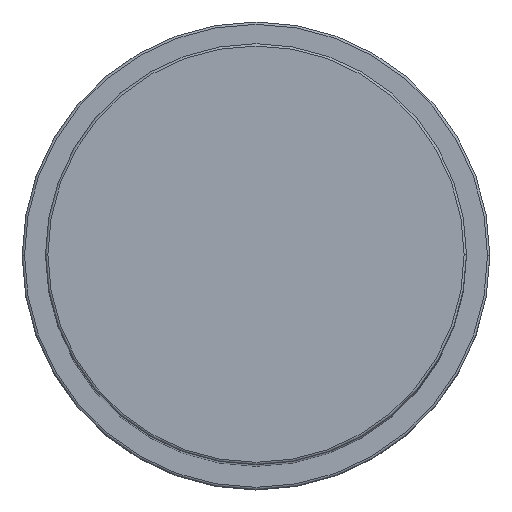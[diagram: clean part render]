
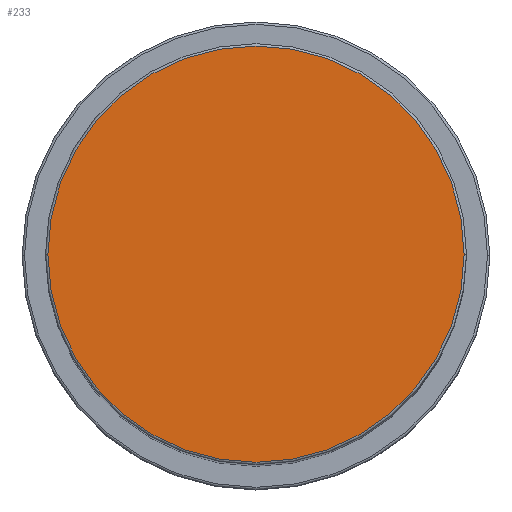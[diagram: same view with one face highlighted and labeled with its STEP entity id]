
A CAD part, top view. The second image highlights one B-rep face of the part: STEP entity #233.
In plain terms, the highlighted planar face has unit normal (0, 0, 1).
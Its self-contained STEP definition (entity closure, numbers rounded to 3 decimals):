
#165 = CIRCLE ( 'NONE', #872, 44.5 ) ;
#233 = ADVANCED_FACE ( 'NONE', ( #318 ), #608, .T. ) ;
#257 = DIRECTION ( 'NONE',  ( 0., 0., 1. ) ) ;
#260 = ORIENTED_EDGE ( 'NONE', *, *, #781, .T. ) ;
#318 = FACE_OUTER_BOUND ( 'NONE', #801, .T. ) ;
#551 = DIRECTION ( 'NONE',  ( 1., 0., 0. ) ) ;
#565 = EDGE_CURVE ( 'NONE', #1189, #1113, #165, .T. ) ;
#579 = DIRECTION ( 'NONE',  ( 1., 0., 0. ) ) ;
#605 = DIRECTION ( 'NONE',  ( 0., 0., 1. ) ) ;
#608 = PLANE ( 'NONE',  #1060 ) ;
#626 = ORIENTED_EDGE ( 'NONE', *, *, #565, .T. ) ;
#672 = CIRCLE ( 'NONE', #742, 44.5 ) ;
#685 = CARTESIAN_POINT ( 'NONE',  ( 0., 0., 224. ) ) ;
#688 = CARTESIAN_POINT ( 'NONE',  ( 44.5, 0., 224. ) ) ;
#742 = AXIS2_PLACEMENT_3D ( 'NONE', #1445, #605, #1310 ) ;
#781 = EDGE_CURVE ( 'NONE', #1113, #1189, #672, .T. ) ;
#801 = EDGE_LOOP ( 'NONE', ( #260, #626 ) ) ;
#872 = AXIS2_PLACEMENT_3D ( 'NONE', #685, #257, #551 ) ;
#892 = CARTESIAN_POINT ( 'NONE',  ( 0., 0., 224. ) ) ;
#897 = DIRECTION ( 'NONE',  ( 0., 0., 1. ) ) ;
#1060 = AXIS2_PLACEMENT_3D ( 'NONE', #892, #897, #579 ) ;
#1113 = VERTEX_POINT ( 'NONE', #688 ) ;
#1189 = VERTEX_POINT ( 'NONE', #1255 ) ;
#1255 = CARTESIAN_POINT ( 'NONE',  ( -44.5, 0., 224. ) ) ;
#1310 = DIRECTION ( 'NONE',  ( 1., 0., 0. ) ) ;
#1445 = CARTESIAN_POINT ( 'NONE',  ( 0., 0., 224. ) ) ;
